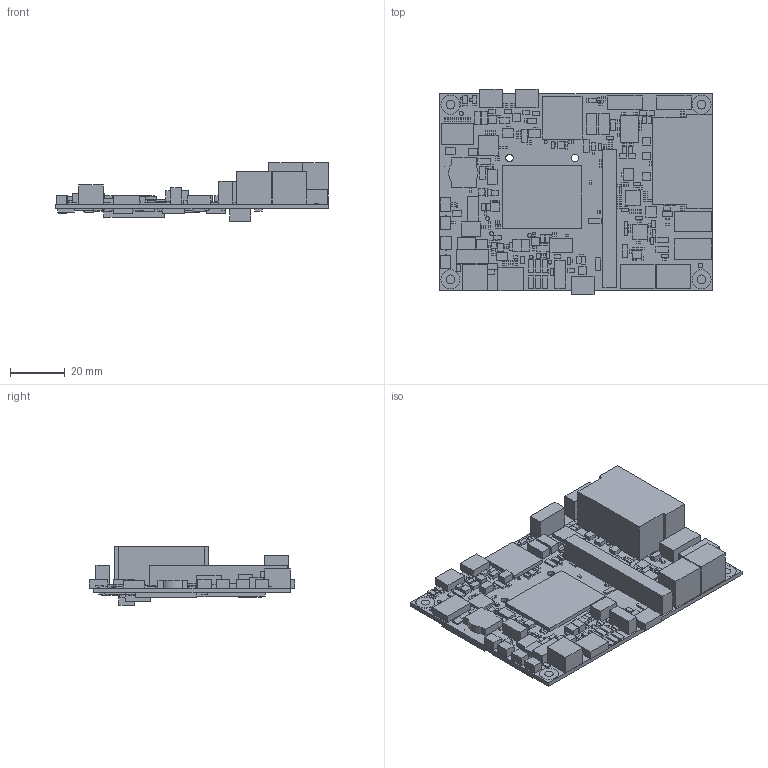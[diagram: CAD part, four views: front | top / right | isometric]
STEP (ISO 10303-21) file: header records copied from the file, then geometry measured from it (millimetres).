
FILE_DESCRIPTION(('FreeCAD Model'),'2;1');
FILE_NAME('P:/Development/PBA-C-26_phyBOARD-TBD_iMXRT1170/Hardware/Schematics/1570-01/PCB/Output/hell.step', '2023-07-26T15:05:49',('Author'),(''), 'Open CASCADE STEP processor 7.3','FreeCAD','Unknown');
FILE_SCHEMA(('AUTOMOTIVE_DESIGN { 1 0 10303 214 1 1 1 1 }'));
Length unit declared in the file: millimetre
Products named in the file (495): _C105_; _C100_; _C108_; _C111_; _C101_; _C112_; _C106_; _C103_; _C107_; _BAT1_; Board_outline; _C109_; _C110_; _C102_; _C104_; _C115_; _R119_; _Q12_; _R100_; _L5_; _R105_; _R111_; _R123_; _R110_; _R124_; _Q14_; _R126_; _R127_; _L4_; _L7_; _L8_; _L3_; _Q2_; _R10_; _R12_; _R106_; _R11_; _R104_; _R121_; _R125_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
Bounding box: 100 x 75.2 x 21.55 mm (x, y, z)
Volume: 37304.3 mm3; surface area: 36511.1 mm2
Topology: 495 solids, 495 shells, 2997 faces, 6021 edges, 4014 vertices
Faces by surface type: plane 2737, cylinder 260
Full cylindrical faces by diameter (mm): 0.65 x1, 0.8 x10, 0.9 x31, 1 x72, 1.2 x3, 1.4 x4, 1.6 x6, 1.7 x1, 2.6 x1, 2.7 x3, 3.2 x4, 3.3 x2
Entity records: 164754 total; most frequent: CARTESIAN_POINT 25795, DIRECTION 24459, LINE 17023, VECTOR 17023, ORIENTED_EDGE 12042, PCURVE 12042, DEFINITIONAL_REPRESENTATION 12042, EDGE_CURVE 6021
